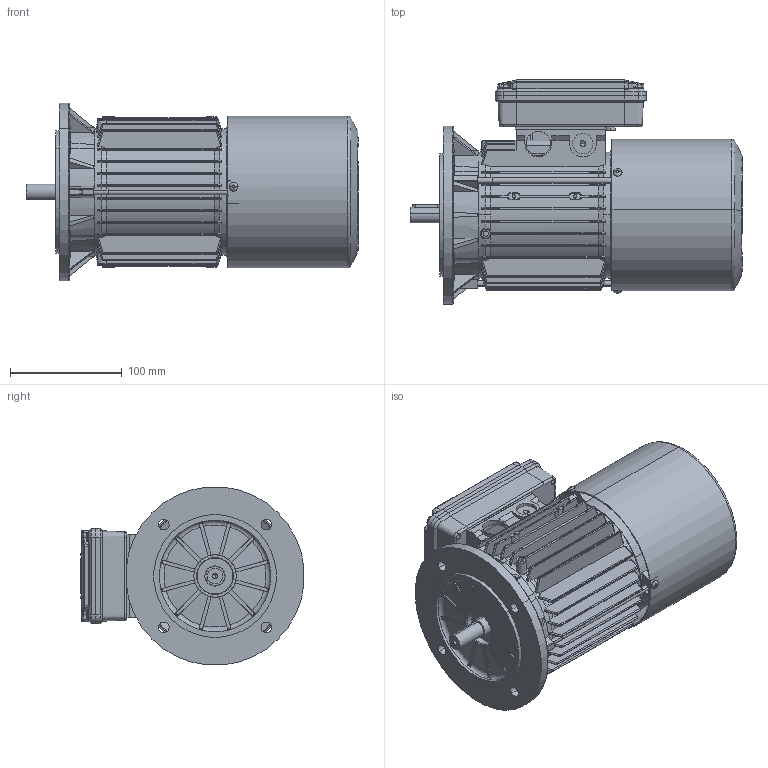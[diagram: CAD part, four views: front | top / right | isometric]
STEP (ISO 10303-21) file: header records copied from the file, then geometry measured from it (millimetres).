
FILE_DESCRIPTION (( 'STEP AP214' ), '1' );
FILE_NAME ('M14CB0010.STEP', '2018-11-15T07:58:33', ( '' ), ( '' ), 'SwSTEP 2.0', 'SolidWorks 2018', '' );
FILE_SCHEMA (( 'AUTOMOTIVE_DESIGN' ));
Length unit declared in the file: millimetre
Products named in the file (14): Scudo Lato Freno P1 BM 71 NT - DBCK0207; Albero BM 71; Chiavetta 71; Carcassa 71 B5; M14CB0010; Scatola per Morsettiera Doppia 63-71-80 - Completa; Guarnizione Scatola Singola 63-71-80; Vite per coperchio morsettiera; Coperchio per Scatola per Morsettiera Doppia 63-71-80; Scatola per Morsettiera Doppia 63-71-80; Vite testa rotonda M3; Scudo a flangia B5 Fi 160 BA-BM 71; Tirante BM 71; Cuffia BM 71 - DBBK0097
Assembly tree (20 placements, depth 3):
  M14CB0010
    Carcassa 71 B5
    Chiavetta 71
    Albero BM 71
    Scudo Lato Freno P1 BM 71 NT - DBCK0207
    Cuffia BM 71 - DBBK0097
    Tirante BM 71  x3
    Scudo a flangia B5 Fi 160 BA-BM 71
    Vite testa rotonda M3  x3
    Scatola per Morsettiera Doppia 63-71-80 - Completa
      Scatola per Morsettiera Doppia 63-71-80
      Coperchio per Scatola per Morsettiera Doppia 63-71-80
      Vite per coperchio morsettiera  x4
      Guarnizione Scatola Singola 63-71-80
Bounding box: 297.5 x 200.7 x 159.39 mm (x, y, z)
Volume: 721027.7 mm3; surface area: 528133.8 mm2
Topology: 22 solids, 22 shells, 3128 faces, 8406 edges, 5265 vertices
Faces by surface type: plane 1107, cylinder 1048, bspline 376, torus 342, cone 241, sphere 14
Entity records: 102993 total; most frequent: CARTESIAN_POINT 34733, ORIENTED_EDGE 14928, DIRECTION 13019, EDGE_CURVE 7464, AXIS2_PLACEMENT_3D 4912, VERTEX_POINT 4767, LINE 3195, VECTOR 3195
